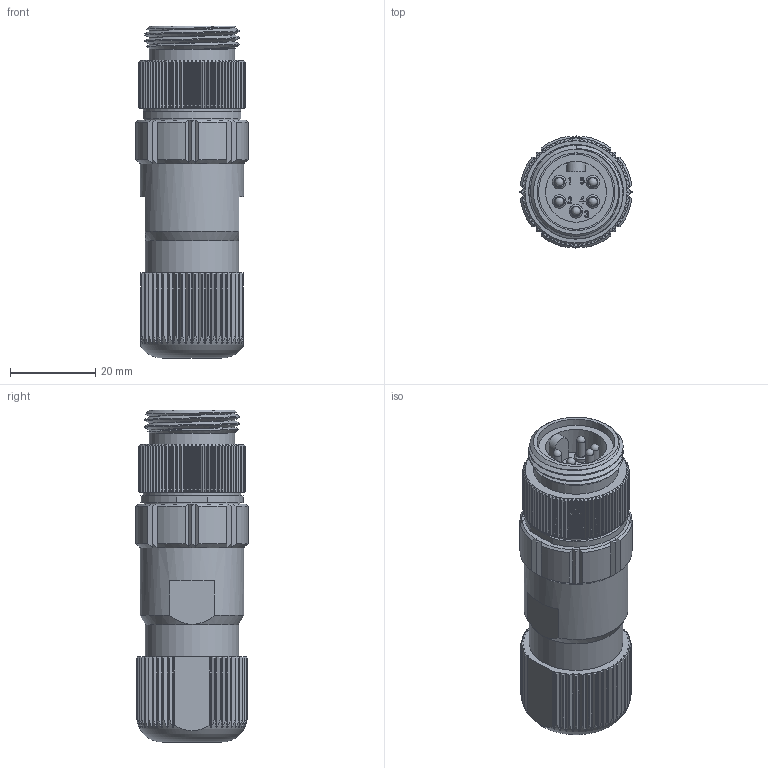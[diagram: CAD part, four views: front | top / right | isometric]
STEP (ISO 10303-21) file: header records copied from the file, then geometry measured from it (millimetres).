
FILE_DESCRIPTION (( 'STEP AP203' ), '1' );
FILE_NAME ('CM03-J5P(R1).STEP', '2022-04-07T03:46:54', ( '' ), ( '' ), 'SwSTEP 2.0', 'SolidWorks 2018', '' );
FILE_SCHEMA (( 'CONFIG_CONTROL_DESIGN' ));
Length unit declared in the file: millimetre
Products named in the file (1): CM03-J5P(R1)
Bounding box: 26.4 x 26.4 x 78 mm (x, y, z)
Volume: 25722.1 mm3; surface area: 12161.8 mm2
Topology: 1 solids, 1 shells, 1089 faces, 3188 edges, 2120 vertices
Faces by surface type: cylinder 517, plane 355, cone 149, bspline 61, sphere 5, torus 2
Full cylindrical faces by diameter (mm): 2.01 x5, 3.2 x5, 12 x1, 12.5 x1, 12.7 x1, 13 x1, 14.3 x1, 17.6 x1, 18.3 x1, 18.4 x1, 20 x1, 21.95 x1, 22.6 x1, 22.9 x1, 24.4 x1
Entity records: 40743 total; most frequent: CARTESIAN_POINT 14320, ORIENTED_EDGE 6228, DIRECTION 4465, EDGE_CURVE 3114, VERTEX_POINT 2093, AXIS2_PLACEMENT_3D 1606, B_SPLINE_CURVE_WITH_KNOTS 1278, VECTOR 1253
